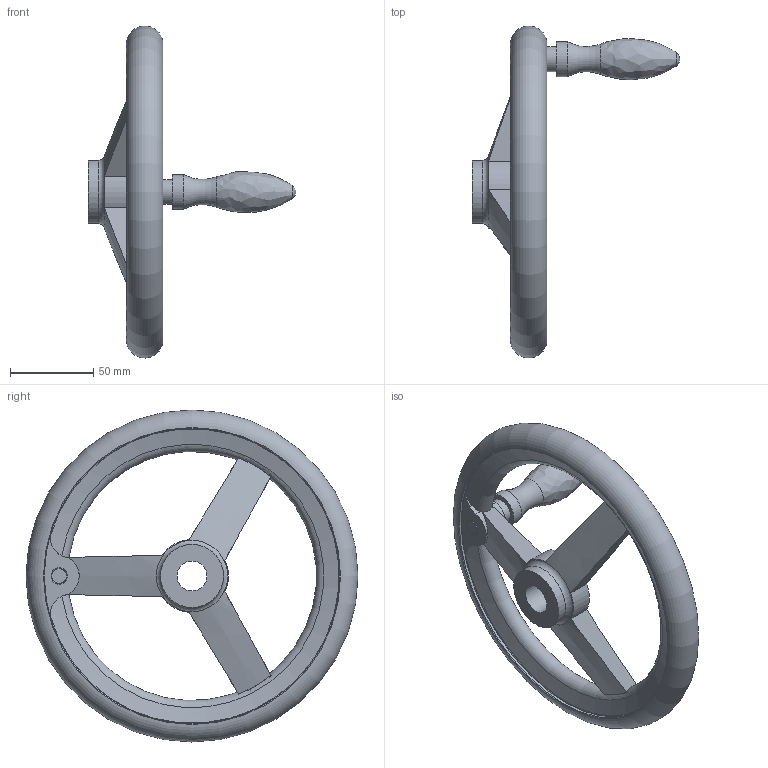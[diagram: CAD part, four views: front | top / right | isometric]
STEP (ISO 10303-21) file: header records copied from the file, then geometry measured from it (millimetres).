
FILE_DESCRIPTION( ( 'STEP AP203' ), '1' );
FILE_NAME( 'C:/Temp/Ganter_Step_05_03_2020/data/1_3/din_950/din_950_b/din_950_b_d/Handwheel DIN 950-AL-200-B18-D.stp', '2020-03-05T10:29:47', ( 'License CC BY-ND 4.0' ), ( 'CADENAS' ), ' ', 'PARTsolutions', ' ' );
FILE_SCHEMA( ( 'CONFIG_CONTROL_DESIGN' ) );
Length unit declared in the file: millimetre
Products named in the file (1): _Handwheel DIN 950-AL-200-B18-D
Bounding box: 125 x 199.99 x 199.99 mm (x, y, z)
Volume: 300455.5 mm3; surface area: 64062.5 mm2
Topology: 1 solids, 1 shells, 51 faces, 140 edges, 89 vertices
Faces by surface type: cylinder 16, torus 15, plane 12, cone 6, bspline 1, sphere 1
Full cylindrical faces by diameter (mm): 15 x1, 18 x1, 21 x1, 38 x2, 178 x2
Entity records: 1954 total; most frequent: CARTESIAN_POINT 774, ORIENTED_EDGE 226, DIRECTION 218, EDGE_CURVE 113, AXIS2_PLACEMENT_3D 102, VERTEX_POINT 85, EDGE_LOOP 78, FACE_OUTER_BOUND 67
